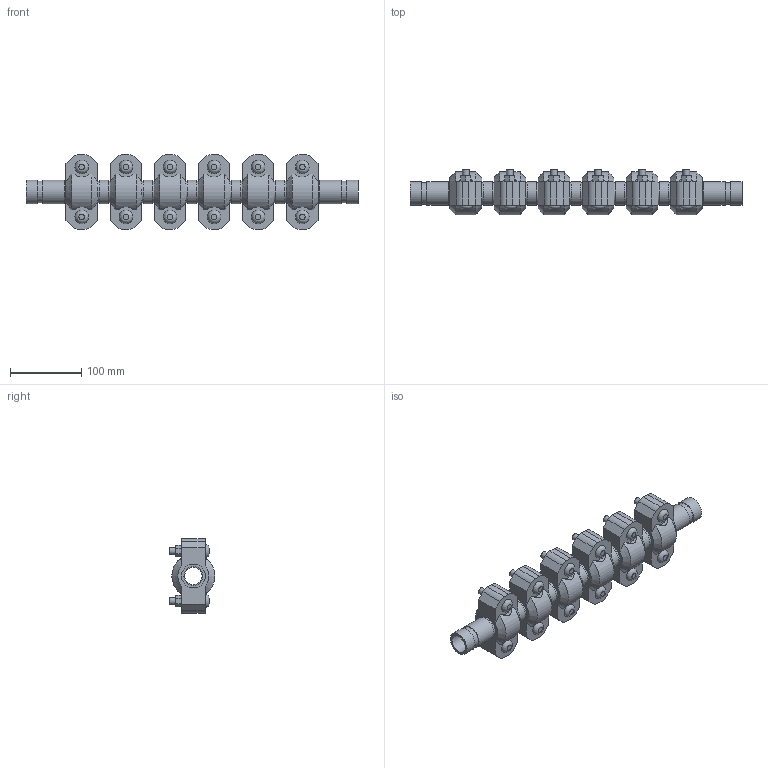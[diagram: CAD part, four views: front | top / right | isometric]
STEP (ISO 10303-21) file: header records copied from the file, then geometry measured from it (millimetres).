
FILE_DESCRIPTION(/* description */ ('VIC EXPANSION JOINT 6 COUPLINGS EXPANDED STYLE 155 (OGS)','CAx-IF Rec.Pracs.---Representation and Presentation of Product Manufacturing Information (PMI)---4.0---2014-10-13'),/* implementation_level */ '2;1');
FILE_NAME(/* name */ 'C:\Users\kkamble\AppData\Roaming\Autodesk\ApplicationPlugins\Victaulic.Temp\A6\Victaulic_IPS_Expansion Joint_Expanded_6 Couplings_Style 155 (OGS)_1 (25).stp',/* time_stamp */ '2021-06-27T00:04:10+02:00',/* author */ ('kkamble'),/* organization */ ('Victaulic'),/* preprocessor_version */ 'ST-DEVELOPER v17.2',/* originating_system */ 'Autodesk Inventor 2019',/* authorisation */ '');
FILE_SCHEMA (('AP242_MANAGED_MODEL_BASED_3D_ENGINEERING_MIM_LF { 1 0 10303 442 1 1 4 }'));
Length unit declared in the file: inch
Products named in the file (4): 155-01.0; Nipple-01.0; Nipple-01.0_1; 077-01.0
Assembly tree (13 placements, depth 2):
  155-01.0
    Nipple-01.0  x2
    Nipple-01.0_1  x5
    077-01.0  x6
Bounding box: 466.6 x 64.33 x 104.65 mm (x, y, z)
Volume: 1003179.4 mm3; surface area: 270391.5 mm2
Topology: 13 solids, 25 shells, 450 faces, 1080 edges, 756 vertices
Faces by surface type: plane 258, cylinder 156, cone 24, bspline 12
Full cylindrical faces by diameter (mm): 9.525 x24, 11.43 x12, 24.511 x6, 26.645 x7, 30.226 x14, 33.401 x33
Entity records: 3001 total; most frequent: CARTESIAN_POINT 573, DIRECTION 489, ORIENTED_EDGE 410, EDGE_CURVE 205, AXIS2_PLACEMENT_3D 196, VERTEX_POINT 146, EDGE_LOOP 111, LINE 97
